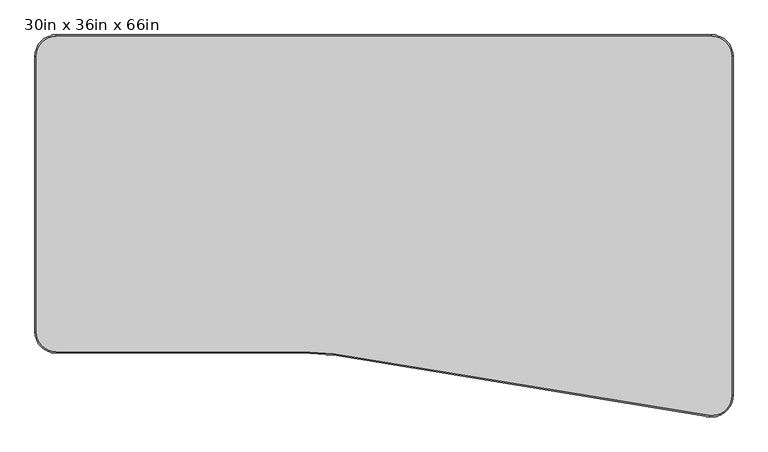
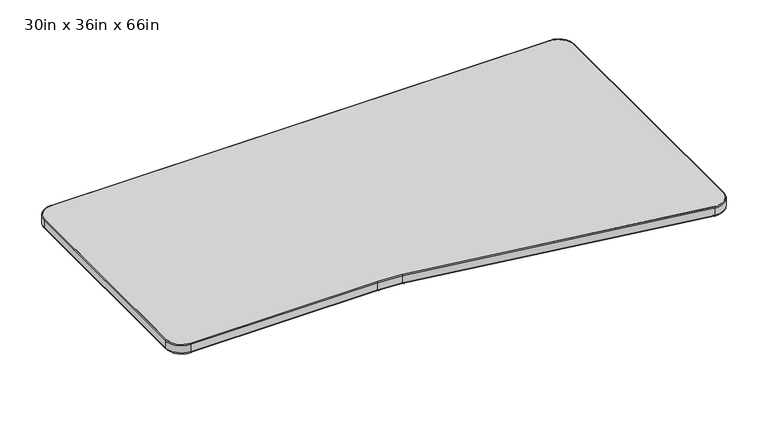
"""IFC4 building model written with IfcOpenShell, lengths in millimetres: furniture geometry, Steelcase - Answer Solution - Universal Table - Transition - Right : 30in x 36in x 66in."""

from ifc_helpers import new_model, si_unit, point, frame, frame_2d, origin, place, context, project, spatial, polyline, circle_curve, ellipse_curve, trimmed, segment, composite_curve, outline, extrude, source, transform, mapped, element, save
from ifc_brep_helpers import plane_surface, cylinder_surface, revolved_surface, advanced_brep


def furniture_30in_x_36in_x_66in_160e33f3(model_context):
    return source(origin(), model_context, "Body", "SolidModel", [
        extrude(outline(composite_curve([segment(polyline([(50.8000015, -3.0479999), (1619.25, -3.0479999)]), True, "CONTINUOUS"), segment(trimmed(circle_curve(frame_2d((1619.25, -50.8000271)), 47.7520271), [point((1619.25, -3.0479999))], [point((1667.0020271, -50.8000271))], False, "CARTESIAN"), True, "CONTINUOUS"), segment(polyline([(1667.0020271, -50.8000271), (1667.0020271, -863.5999758)]), True, "CONTINUOUS"), segment(trimmed(circle_curve(frame_2d((1619.167308, -863.8293394)), 47.835269), [point((1667.0020271, -863.5999758))], [point((1613.3376552, -911.3080515))], False, "CARTESIAN"), True, "CONTINUOUS"), segment(polyline([(1613.3376552, -911.3080515), (714.3280552, -763.4988184)]), True, "CONTINUOUS"), segment(trimmed(circle_curve(frame_2d((639.9393929, -1369.3458544)), 610.3968415), [point((714.3280552, -763.4988184))], [point((639.8259893, -758.9490234))], True, "CARTESIAN"), True, "CONTINUOUS"), segment(polyline([(639.8259893, -758.9490234), (50.8000015, -758.9490234)]), True, "CONTINUOUS"), segment(trimmed(circle_curve(frame_2d((50.8000015, -711.1970219)), 47.7520016), [point((50.8000015, -758.9490234))], [point((3.0479999, -711.1970219))], False, "CARTESIAN"), True, "CONTINUOUS"), segment(polyline([(3.0479999, -711.1970219), (3.0479999, -50.8000015)]), True, "CONTINUOUS"), segment(trimmed(circle_curve(frame_2d((50.8000015, -50.8000015)), 47.7520016), [point((3.0479999, -50.8000015))], [point((50.8000015, -3.0479999))], False, "CARTESIAN"), True, "CONTINUOUS")], self_intersect=False)), frame((0.0, 0.0, 668.274), z_axis=(0.0, 0.0, 1.0), x_axis=(1.0, 0.0, 0.0)), (0.0, 0.0, 1.0), 30.0481659),
        advanced_brep(
        [(714.3280552, -763.498818, 668.1439926), (639.8259893, -758.9490231, 668.1439926), (639.8259893, -758.9490231, 698.3221659), (714.3280552, -763.498818, 698.3221659), (713.9562346, -766.5270538, 671.19497), (639.8265562, -762.0000003, 671.19497), (713.9562346, -766.5270538, 695.2711886), (639.8265562, -762.0000003, 695.2711886), (1612.7104635, -911.2310417, 698.3221659), (1612.7104635, -911.2310417, 668.1439926), (1612.2154022, -914.241586, 671.19497), (1612.2154022, -914.241586, 695.2711886), (1667.0020268, -863.1979241, 668.1439926), (1667.0020268, -863.1979241, 698.3221659), (1670.0530041, -863.1979241, 671.19497), (1670.0530041, -863.1979241, 695.2711886), (1667.0020268, -50.8000271, 698.3221659), (1667.0020268, -50.8000271, 668.1439926), (1670.0530041, -50.8000271, 671.19497), (1670.0530041, -50.8000271, 695.2711886), (1619.25, -3.0480003, 668.1439926), (1619.25, -3.0480003, 698.3221659), (1619.25, 0.002977, 671.19497), (1619.25, 0.002977, 695.2711886), (50.8000015, -3.0480003, 698.3221659), (50.8000015, -3.0480003, 668.1439926), (50.8000015, 0.002977, 671.19497), (50.8000015, 0.002977, 695.2711886), (3.0480003, -50.8000015, 668.1439926), (3.0480003, -50.8000015, 698.3221659), (-0.002977, -50.8000015, 671.19497), (-0.002977, -50.8000015, 695.2711886), (3.0480003, -711.1970219, 698.3221659), (3.0480003, -711.1970219, 668.1439926), (-0.002977, -711.1970219, 671.19497), (-0.002977, -711.1970219, 695.2711886), (50.8000015, -758.9490231, 668.1439926), (50.8000015, -758.9490231, 698.3221659), (50.8000015, -762.0000004, 671.19497), (50.8000015, -762.0000004, 695.2711886)],
        [
            (0, 1, circle_curve(frame((639.9393929, -1369.3458543, 668.1439926), z_axis=(0.0, 0.0, 1.0), x_axis=(-0.00018578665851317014, 0.9999999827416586, 0.0)), 610.3968418)),
            (1, 2),
            (2, 3, circle_curve(frame((639.9393929, -1369.3458543, 698.3221659), z_axis=(0.0, 0.0, -1.0), x_axis=(-0.00018578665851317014, 0.9999999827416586, 0.0)), 610.3968418)),
            (3, 0),
            (4, 5, circle_curve(frame((639.9393929, -1369.3458543, 671.19497), z_axis=(0.0, 0.0, 1.0), x_axis=(-0.00018578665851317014, 0.9999999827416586, 0.0)), 607.3458645)),
            (5, 1, circle_curve(frame((639.8259893, -758.9490231, 671.19497), z_axis=(0.9999999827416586, 0.00018578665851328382, 0.0), x_axis=(-0.00018578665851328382, 0.9999999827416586, 0.0)), 3.0509773)),
            (0, 4, circle_curve(frame((714.3280552, -763.498818, 671.19497), z_axis=(-0.9925461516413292, 0.12186934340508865, 0.0), x_axis=(0.12186934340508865, 0.9925461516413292, 0.0)), 3.0509773)),
            (6, 7, circle_curve(frame((639.9393929, -1369.3458543, 695.2711886), z_axis=(0.0, 0.0, 1.0), x_axis=(-0.00018578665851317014, 0.9999999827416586, 0.0)), 607.3458645)),
            (7, 5),
            (4, 6),
            (2, 7, circle_curve(frame((639.8259893, -758.9490231, 695.2711886), z_axis=(0.9999999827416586, 0.00018578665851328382, 0.0), x_axis=(-0.00018578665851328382, 0.9999999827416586, 0.0)), 3.0509773)),
            (6, 3, circle_curve(frame((714.3280552, -763.498818, 695.2711886), z_axis=(-0.9925461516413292, 0.1218693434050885, 0.0), x_axis=(0.1218693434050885, 0.9925461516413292, 0.0)), 3.0509773)),
            (3, 8),
            (8, 9),
            (9, 0),
            (9, 10, circle_curve(frame((1612.7104635, -911.2310417, 671.19497), z_axis=(-0.986747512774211, 0.16226319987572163, 0.0), x_axis=(0.16226319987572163, 0.986747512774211, 0.0)), 3.0509773)),
            (10, 4),
            (10, 11),
            (11, 6),
            (11, 8, circle_curve(frame((1612.7104635, -911.2310417, 695.2711886), z_axis=(-0.986747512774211, 0.16226319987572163, 0.0), x_axis=(0.16226319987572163, 0.986747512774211, 0.0)), 3.0509773)),
            (12, 9, circle_curve(frame((1618.6081888, -863.1979241, 668.1439926), z_axis=(0.0, 0.0, -1.0), x_axis=(-0.1218693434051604, -0.9925461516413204, 0.0)), 48.393838)),
            (8, 13, circle_curve(frame((1618.6081888, -863.1979241, 698.3221659), z_axis=(0.0, 0.0, 1.0), x_axis=(-0.1218693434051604, -0.9925461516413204, 0.0)), 48.393838)),
            (13, 12),
            (14, 10, circle_curve(frame((1618.6081888, -863.1979241, 671.19497), z_axis=(0.0, 0.0, -1.0), x_axis=(-0.1218693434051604, -0.9925461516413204, 0.0)), 51.4448153)),
            (12, 14, circle_curve(frame((1667.0020268, -863.1979241, 671.19497), z_axis=(0.0, -1.0, 0.0), x_axis=(-1.0, 0.0, 0.0)), 3.0509773)),
            (15, 11, circle_curve(frame((1618.6081888, -863.1979241, 695.2711886), z_axis=(0.0, 0.0, -1.0), x_axis=(-0.1218693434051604, -0.9925461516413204, 0.0)), 51.4448153)),
            (14, 15),
            (15, 13, circle_curve(frame((1667.0020268, -863.1979241, 695.2711886), z_axis=(0.0, -1.0, 0.0), x_axis=(-1.0, 0.0, 0.0)), 3.0509773)),
            (13, 16),
            (16, 17),
            (17, 12),
            (17, 18, circle_curve(frame((1667.0020268, -50.8000271, 671.19497), z_axis=(0.0, -1.0, 0.0), x_axis=(-1.0, 0.0, 0.0)), 3.0509773)),
            (18, 14),
            (18, 19),
            (19, 15),
            (19, 16, circle_curve(frame((1667.0020268, -50.8000271, 695.2711886), z_axis=(0.0, -1.0, 0.0), x_axis=(-1.0, 0.0, 0.0)), 3.0509773)),
            (20, 17, circle_curve(frame((1619.25, -50.8000271, 668.1439926), z_axis=(0.0, 0.0, -1.0), x_axis=(1.0, 0.0, 0.0)), 47.7520268)),
            (16, 21, circle_curve(frame((1619.25, -50.8000271, 698.3221659), z_axis=(0.0, 0.0, 1.0), x_axis=(1.0, 0.0, 0.0)), 47.7520268)),
            (21, 20),
            (22, 18, circle_curve(frame((1619.25, -50.8000271, 671.19497), z_axis=(0.0, 0.0, -1.0), x_axis=(1.0, 0.0, 0.0)), 50.8030041)),
            (20, 22, circle_curve(frame((1619.25, -3.0480003, 671.19497), z_axis=(1.0, 0.0, 0.0), x_axis=(0.0, -1.0, 0.0)), 3.0509773)),
            (23, 19, circle_curve(frame((1619.25, -50.8000271, 695.2711886), z_axis=(0.0, 0.0, -1.0), x_axis=(1.0, 0.0, 0.0)), 50.8030041)),
            (22, 23),
            (23, 21, circle_curve(frame((1619.25, -3.0480003, 695.2711886), z_axis=(1.0, 0.0, 0.0), x_axis=(0.0, -1.0, 0.0)), 3.0509773)),
            (21, 24),
            (24, 25),
            (25, 20),
            (25, 26, circle_curve(frame((50.8000015, -3.0480003, 671.19497), z_axis=(1.0, 0.0, 0.0), x_axis=(0.0, -1.0, 0.0)), 3.0509773)),
            (26, 22),
            (26, 27),
            (27, 23),
            (27, 24, circle_curve(frame((50.8000015, -3.0480003, 695.2711886), z_axis=(1.0, 0.0, 0.0), x_axis=(0.0, -1.0, 0.0)), 3.0509773)),
            (28, 25, circle_curve(frame((50.8000015, -50.8000015, 668.1439926), z_axis=(0.0, 0.0, -1.0), x_axis=(0.0, 1.0, 0.0)), 47.7520012)),
            (24, 29, circle_curve(frame((50.8000015, -50.8000015, 698.3221659), z_axis=(0.0, 0.0, 1.0), x_axis=(0.0, 1.0, 0.0)), 47.7520012)),
            (29, 28),
            (30, 26, circle_curve(frame((50.8000015, -50.8000015, 671.19497), z_axis=(0.0, 0.0, -1.0), x_axis=(0.0, 1.0, 0.0)), 50.8029785)),
            (28, 30, circle_curve(frame((3.0480003, -50.8000015, 671.19497), z_axis=(0.0, 1.0, 0.0), x_axis=(1.0, 0.0, 0.0)), 3.0509773)),
            (31, 27, circle_curve(frame((50.8000015, -50.8000015, 695.2711886), z_axis=(0.0, 0.0, -1.0), x_axis=(0.0, 1.0, 0.0)), 50.8029785)),
            (30, 31),
            (31, 29, circle_curve(frame((3.0480003, -50.8000015, 695.2711886), z_axis=(0.0, 1.0, 0.0), x_axis=(1.0, 0.0, 0.0)), 3.0509773)),
            (29, 32),
            (32, 33),
            (33, 28),
            (33, 34, circle_curve(frame((3.0480003, -711.1970219, 671.19497), z_axis=(0.0, 1.0, 0.0), x_axis=(1.0, 0.0, 0.0)), 3.0509773)),
            (34, 30),
            (34, 35),
            (35, 31),
            (35, 32, circle_curve(frame((3.0480003, -711.1970219, 695.2711886), z_axis=(0.0, 1.0, 0.0), x_axis=(1.0, 0.0, 0.0)), 3.0509773)),
            (36, 33, circle_curve(frame((50.8000015, -711.1970219, 668.1439926), z_axis=(0.0, 0.0, -1.0), x_axis=(-1.0, 0.0, 0.0)), 47.7520012)),
            (32, 37, circle_curve(frame((50.8000015, -711.1970219, 698.3221659), z_axis=(0.0, 0.0, 1.0), x_axis=(-1.0, 0.0, 0.0)), 47.7520012)),
            (37, 36),
            (38, 34, circle_curve(frame((50.8000015, -711.1970219, 671.19497), z_axis=(0.0, 0.0, -1.0), x_axis=(-1.0, 0.0, 0.0)), 50.8029785)),
            (36, 38, circle_curve(frame((50.8000015, -758.9490231, 671.19497), z_axis=(-1.0, 0.0, 0.0), x_axis=(0.0, 1.0, 0.0)), 3.0509773)),
            (39, 35, circle_curve(frame((50.8000015, -711.1970219, 695.2711886), z_axis=(0.0, 0.0, -1.0), x_axis=(-1.0, 0.0, 0.0)), 50.8029785)),
            (38, 39),
            (39, 37, circle_curve(frame((50.8000015, -758.9490231, 695.2711886), z_axis=(-1.0, 0.0, 0.0), x_axis=(0.0, 1.0, 0.0)), 3.0509773)),
            (37, 2),
            (1, 36),
            (5, 38),
            (7, 39),
        ],
        [
            cylinder_surface(frame((639.9393929, -1369.3458543, 0.0), z_axis=(0.0, 0.0, -1.0), x_axis=(-0.00018578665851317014, 0.9999999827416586, 0.0)), 610.3968418),
            revolved_surface(trimmed(ellipse_curve(frame((639.8259893, -758.9490231, 671.19497), z_axis=(-0.9999999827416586, -0.00018578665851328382, 0.0), x_axis=(-0.00018578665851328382, 0.9999999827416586, 0.0)), 3.0509773, 3.0509773), [point((639.8259893, -758.9490231, 668.1439926))], [point((639.8265562, -762.0000003, 671.19497))], True, "CARTESIAN"), (639.9393929, -1369.3458543, 0.0), (0.0, 0.0, -1.0)),
            revolved_surface(polyline([(639.8265561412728, -762.0000002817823, 671.19497), (639.8265561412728, -762.0000002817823, 695.2711886)]), (639.9393929, -1369.3458543, 0.0), (0.0, 0.0, -1.0)),
            revolved_surface(trimmed(ellipse_curve(frame((639.8259893, -758.9490231, 695.2711886), z_axis=(-0.9999999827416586, -0.00018578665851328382, 0.0), x_axis=(-0.00018578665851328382, 0.9999999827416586, 0.0)), 3.0509773, 3.0509773), [point((639.8265562, -762.0000003, 695.2711886))], [point((639.8259893, -758.9490231, 698.3221659))], True, "CARTESIAN"), (639.9393929, -1369.3458543, 0.0), (0.0, 0.0, -1.0)),
            plane_surface(frame((714.3280552, -763.498818, 698.3221659), z_axis=(0.16226319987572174, 0.986747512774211, 0.0), x_axis=(0.986747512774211, -0.16226319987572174, 0.0))),
            cylinder_surface(frame((714.3280553, -763.498818, 671.19497), z_axis=(-0.986747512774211, 0.16226319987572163, 0.0), x_axis=(0.16226319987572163, 0.986747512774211, 0.0)), 3.0509773),
            plane_surface(frame((713.9559248, -766.5295774, 671.19497), z_axis=(-0.16226319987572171, -0.986747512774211, 0.0), x_axis=(0.986747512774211, -0.16226319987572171, 0.0))),
            cylinder_surface(frame((714.3280553, -763.498818, 695.2711886), z_axis=(-0.986747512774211, 0.16226319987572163, 0.0), x_axis=(0.16226319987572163, 0.986747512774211, 0.0)), 3.0509773),
            revolved_surface(polyline([(1612.7104635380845, -911.2310417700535, 698.3221659), (1612.7104635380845, -911.2310417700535, 668.1439926)]), (1618.6081888, -863.1979241, 0.0), (0.0, 0.0, 1.0)),
            revolved_surface(trimmed(ellipse_curve(frame((1612.7104635, -911.2310417, 671.19497), z_axis=(-0.9925461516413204, 0.12186934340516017, 0.0), x_axis=(0.12186934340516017, 0.9925461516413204, 0.0)), 3.0509773, 3.0509773), [point((1612.7104635, -911.2310417, 668.1439926))], [point((1612.3386429, -914.2592775, 671.19497))], True, "CARTESIAN"), (1618.6081888, -863.1979241, 0.0), (0.0, 0.0, 1.0)),
            cylinder_surface(frame((1618.6081888, -863.1979241, 0.0), z_axis=(0.0, 0.0, 1.0), x_axis=(-0.1218693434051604, -0.9925461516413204, 0.0)), 51.4448153),
            revolved_surface(trimmed(ellipse_curve(frame((1612.7104635, -911.2310417, 695.2711886), z_axis=(-0.9925461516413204, 0.12186934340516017, 0.0), x_axis=(0.12186934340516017, 0.9925461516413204, 0.0)), 3.0509773, 3.0509773), [point((1612.3386429, -914.2592775, 695.2711886))], [point((1612.7104635, -911.2310417, 698.3221659))], True, "CARTESIAN"), (1618.6081888, -863.1979241, 0.0), (0.0, 0.0, 1.0)),
            plane_surface(frame((1667.0020268, -863.1979241, 698.3221659), z_axis=(-1.0, 0.0, 0.0), x_axis=(0.0, 1.0, 0.0))),
            cylinder_surface(frame((1667.0020268, -863.1979241, 671.19497), z_axis=(0.0, -1.0, 0.0), x_axis=(-1.0, 0.0, 0.0)), 3.0509773),
            plane_surface(frame((1670.0530041, -863.1979241, 671.19497), z_axis=(1.0, 0.0, 0.0), x_axis=(0.0, 1.0, 0.0))),
            cylinder_surface(frame((1667.0020268, -863.1979241, 695.2711886), z_axis=(0.0, -1.0, 0.0), x_axis=(-1.0, 0.0, 0.0)), 3.0509773),
            revolved_surface(polyline([(1667.0020268, -50.8000271, 698.3221659), (1667.0020268, -50.8000271, 668.1439926)]), (1619.25, -50.8000271, 0.0), (0.0, 0.0, 1.0)),
            revolved_surface(trimmed(ellipse_curve(frame((1667.0020268, -50.8000271, 671.19497), z_axis=(0.0, -1.0, 0.0), x_axis=(-1.0, 0.0, 0.0)), 3.0509773, 3.0509773), [point((1667.0020268, -50.8000271, 668.1439926))], [point((1670.0530041, -50.8000271, 671.19497))], True, "CARTESIAN"), (1619.25, -50.8000271, 0.0), (0.0, 0.0, 1.0)),
            cylinder_surface(frame((1619.25, -50.8000271, 0.0), z_axis=(0.0, 0.0, 1.0), x_axis=(1.0, 0.0, 0.0)), 50.8030041),
            revolved_surface(trimmed(ellipse_curve(frame((1667.0020268, -50.8000271, 695.2711886), z_axis=(0.0, -1.0, 0.0), x_axis=(-1.0, 0.0, 0.0)), 3.0509773, 3.0509773), [point((1670.0530041, -50.8000271, 695.2711886))], [point((1667.0020268, -50.8000271, 698.3221659))], True, "CARTESIAN"), (1619.25, -50.8000271, 0.0), (0.0, 0.0, 1.0)),
            plane_surface(frame((1619.25, -3.0480003, 698.3221659), z_axis=(0.0, -1.0, 0.0), x_axis=(-1.0, 0.0, 0.0))),
            cylinder_surface(frame((1619.25, -3.0480003, 671.19497), z_axis=(1.0, 0.0, 0.0), x_axis=(0.0, -1.0, 0.0)), 3.0509773),
            plane_surface(frame((1619.25, 0.002977, 671.19497), z_axis=(0.0, 1.0, 0.0), x_axis=(-1.0, 0.0, 0.0))),
            cylinder_surface(frame((1619.25, -3.0480003, 695.2711886), z_axis=(1.0, 0.0, 0.0), x_axis=(0.0, -1.0, 0.0)), 3.0509773),
            revolved_surface(polyline([(50.8000015, -3.048000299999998, 698.3221659), (50.8000015, -3.048000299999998, 668.1439926)]), (50.8000015, -50.8000015, 0.0), (0.0, 0.0, 1.0)),
            revolved_surface(trimmed(ellipse_curve(frame((50.8000015, -3.0480003, 671.19497), z_axis=(1.0, 0.0, 0.0), x_axis=(0.0, -1.0, 0.0)), 3.0509773, 3.0509773), [point((50.8000015, -3.0480003, 668.1439926))], [point((50.8000015, 0.002977, 671.19497))], True, "CARTESIAN"), (50.8000015, -50.8000015, 0.0), (0.0, 0.0, 1.0)),
            cylinder_surface(frame((50.8000015, -50.8000015, 0.0), z_axis=(0.0, 0.0, 1.0), x_axis=(0.0, 1.0, 0.0)), 50.8029785),
            revolved_surface(trimmed(ellipse_curve(frame((50.8000015, -3.0480003, 695.2711886), z_axis=(1.0, 0.0, 0.0), x_axis=(0.0, -1.0, 0.0)), 3.0509773, 3.0509773), [point((50.8000015, 0.002977, 695.2711886))], [point((50.8000015, -3.0480003, 698.3221659))], True, "CARTESIAN"), (50.8000015, -50.8000015, 0.0), (0.0, 0.0, 1.0)),
            plane_surface(frame((3.0480003, -50.8000015, 698.3221659), z_axis=(1.0, 0.0, 0.0), x_axis=(0.0, -1.0, 0.0))),
            cylinder_surface(frame((3.0480003, -50.8000015, 671.19497), z_axis=(0.0, 1.0, 0.0), x_axis=(1.0, 0.0, 0.0)), 3.0509773),
            plane_surface(frame((-0.002977, -50.8000015, 671.19497), z_axis=(-1.0, 0.0, 0.0), x_axis=(0.0, -1.0, 0.0))),
            cylinder_surface(frame((3.0480003, -50.8000015, 695.2711886), z_axis=(0.0, 1.0, 0.0), x_axis=(1.0, 0.0, 0.0)), 3.0509773),
            revolved_surface(polyline([(3.048000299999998, -711.1970219, 698.3221659), (3.048000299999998, -711.1970219, 668.1439926)]), (50.8000015, -711.1970219, 0.0), (0.0, 0.0, 1.0)),
            revolved_surface(trimmed(ellipse_curve(frame((3.0480003, -711.1970219, 671.19497), z_axis=(0.0, 1.0, 0.0), x_axis=(1.0, 0.0, 0.0)), 3.0509773, 3.0509773), [point((3.0480003, -711.1970219, 668.1439926))], [point((-0.002977, -711.1970219, 671.19497))], True, "CARTESIAN"), (50.8000015, -711.1970219, 0.0), (0.0, 0.0, 1.0)),
            cylinder_surface(frame((50.8000015, -711.1970219, 0.0), z_axis=(0.0, 0.0, 1.0), x_axis=(-1.0, 0.0, 0.0)), 50.8029785),
            revolved_surface(trimmed(ellipse_curve(frame((3.0480003, -711.1970219, 695.2711886), z_axis=(0.0, 1.0, 0.0), x_axis=(1.0, 0.0, 0.0)), 3.0509773, 3.0509773), [point((-0.002977, -711.1970219, 695.2711886))], [point((3.0480003, -711.1970219, 698.3221659))], True, "CARTESIAN"), (50.8000015, -711.1970219, 0.0), (0.0, 0.0, 1.0)),
            plane_surface(frame((50.8000015, -758.9490231, 698.3221659), z_axis=(0.0, 1.0, 0.0), x_axis=(1.0, 0.0, 0.0))),
            cylinder_surface(frame((50.8000015, -758.9490231, 671.19497), z_axis=(-1.0, 0.0, 0.0), x_axis=(0.0, 1.0, 0.0)), 3.0509773),
            plane_surface(frame((50.8000015, -762.0000004, 671.19497), z_axis=(0.0, -1.0, 0.0), x_axis=(1.0, 0.0, 0.0))),
            cylinder_surface(frame((50.8000015, -758.9490231, 695.2711886), z_axis=(-1.0, 0.0, 0.0), x_axis=(0.0, 1.0, 0.0)), 3.0509773),
        ],
        [
            (0, [[1, 2, 3, 4]]),
            (1, [[5, 6, -1, 7]]),
            (2, [[8, 9, -5, 10]]),
            (3, [[-3, 11, -8, 12]]),
            (4, [[-4, 13, 14, 15]]),
            (5, [[-7, -15, 16, 17]]),
            (6, [[-10, -17, 18, 19]]),
            (7, [[-12, -19, 20, -13]]),
            (8, [[21, -14, 22, 23]]),
            (9, [[24, -16, -21, 25]]),
            (10, [[26, -18, -24, 27]]),
            (11, [[-22, -20, -26, 28]]),
            (12, [[-23, 29, 30, 31]]),
            (13, [[-25, -31, 32, 33]]),
            (14, [[-27, -33, 34, 35]]),
            (15, [[-28, -35, 36, -29]]),
            (16, [[37, -30, 38, 39]]),
            (17, [[40, -32, -37, 41]]),
            (18, [[42, -34, -40, 43]]),
            (19, [[-38, -36, -42, 44]]),
            (20, [[-39, 45, 46, 47]]),
            (21, [[-41, -47, 48, 49]]),
            (22, [[-43, -49, 50, 51]]),
            (23, [[-44, -51, 52, -45]]),
            (24, [[53, -46, 54, 55]]),
            (25, [[56, -48, -53, 57]]),
            (26, [[58, -50, -56, 59]]),
            (27, [[-54, -52, -58, 60]]),
            (28, [[-55, 61, 62, 63]]),
            (29, [[-57, -63, 64, 65]]),
            (30, [[-59, -65, 66, 67]]),
            (31, [[-60, -67, 68, -61]]),
            (32, [[69, -62, 70, 71]]),
            (33, [[72, -64, -69, 73]]),
            (34, [[74, -66, -72, 75]]),
            (35, [[-70, -68, -74, 76]]),
            (36, [[-71, 77, -2, 78]]),
            (37, [[-73, -78, -6, 79]]),
            (38, [[-75, -79, -9, 80]]),
            (39, [[-76, -80, -11, -77]]),
        ],
    ),
    ])


if __name__ == "__main__":
    model = new_model("IFC4")
    model_context = context("Model", 3, world=origin())
    ifc_project = project(units=[si_unit("LENGTHUNIT", "METRE", prefix="MILLI")], contexts=[model_context])
    site = spatial("IfcSite", under=ifc_project)
    building = spatial("IfcBuilding", under=site)
    placement = place(None, origin())
    furniture_30in_x_36in_x_66in_shape = furniture_30in_x_36in_x_66in_160e33f3(model_context)
    element("IfcFurniture", 1, ObjectType="Steelcase - Answer Solution - Universal Table - Transition - Right : 30in x 36in x 66in", at=placement, inside=building, context=model_context, shape_type="MappedRepresentation", body=[
        mapped(furniture_30in_x_36in_x_66in_shape, transform((0.0, 0.0, 0.0), x_axis=(1.0, 0.0, 0.0), y_axis=(0.0, 1.0, 0.0), z_axis=(0.0, 0.0, 1.0))),
    ])
    save(model, "model.ifc")
